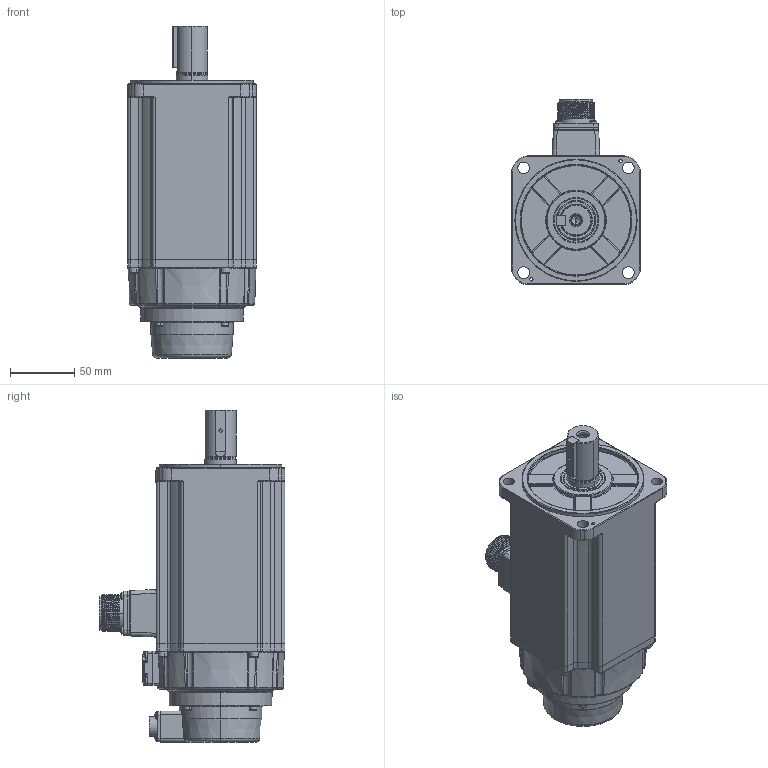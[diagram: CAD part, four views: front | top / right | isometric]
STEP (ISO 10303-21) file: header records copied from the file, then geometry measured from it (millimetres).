
FILE_DESCRIPTION (( 'STEP AP214' ), '1' );
FILE_NAME ('RSK1-S-100-2.5kw-B.STEP', '2024-08-22T06:49:03', ( '' ), ( '' ), 'SwSTEP 2.0', 'SolidWorks 2020', '' );
FILE_SCHEMA (( 'AUTOMOTIVE_DESIGN' ));
Length unit declared in the file: millimetre
Products named in the file (15): す瑩_B8x7x32; 坋趼羞攫芛蹟隊_M3x30; 100-S-2.5kw儂褲; 130秶雄ん盄揤裔; 130雄薯瑤脣價釱; 4140000005_电机内部编码器线_7x26AWG(0.1m-CMV1-10芯螺纹插座_GACJ3045); RSK1-S-100-2.5kw-B; 100-惕掅綴傷裔; 100-S-24粣噤; 内六角圆柱头和平垫圈组合螺钉_M3x16; ﾊｮﾗﾖｲﾛﾅﾌﾍｷﾗﾔｼｷﾂﾝｶ､_M3x8; 内六角圆柱头螺钉_M4x16; 蚐猾_TC25x35x5; 惕掅雄薯瑤脣; 130梓袧綴裔
Assembly tree (30 placements, depth 2):
  RSK1-S-100-2.5kw-B
    100-S-2.5kw儂褲
    100-惕掅綴傷裔
    坋趼羞攫芛蹟隊_M3x30  x8
    130雄薯瑤脣價釱
    惕掅雄薯瑤脣
    内六角圆柱头螺钉_M4x16  x4
    130梓袧綴裔
    4140000005_电机内部编码器线_7x26AWG(0.1m-CMV1-10芯螺纹插座_GACJ3045)
    ﾊｮﾗﾖｲﾛﾅﾌﾍｷﾗﾔｼｷﾂﾝｶ､_M3x8  x4
    内六角圆柱头和平垫圈组合螺钉_M3x16  x4
    100-S-24粣噤
    す瑩_B8x7x32
    蚐猾_TC25x35x5
    130秶雄ん盄揤裔
Bounding box: 100 x 144.4 x 258 mm (x, y, z)
Volume: 1703115.2 mm3; surface area: 167630.7 mm2
Topology: 33 solids, 35 shells, 3146 faces, 7763 edges, 4844 vertices
Faces by surface type: plane 1461, cylinder 769, cone 323, torus 269, bspline 248, sphere 76
Entity records: 109047 total; most frequent: CARTESIAN_POINT 28905, ORIENTED_EDGE 13310, DIRECTION 13208, EDGE_CURVE 6655, AXIS2_PLACEMENT_3D 4729, VERTEX_POINT 4170, VECTOR 3750, LINE 3750
